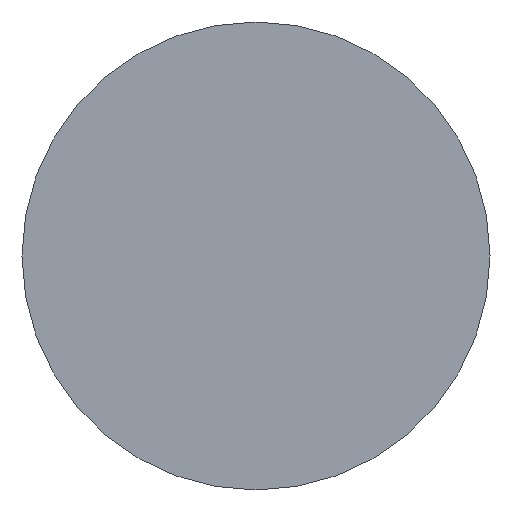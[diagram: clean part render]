
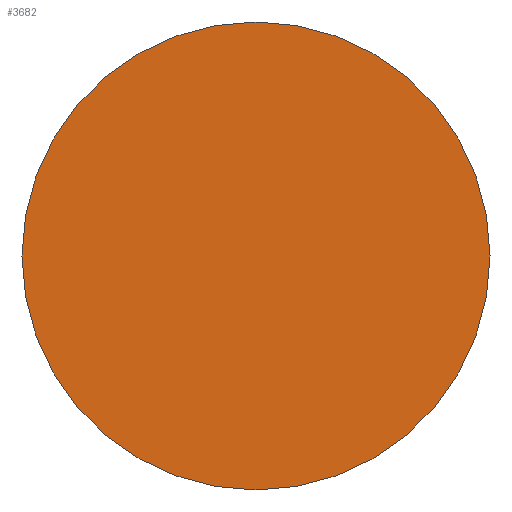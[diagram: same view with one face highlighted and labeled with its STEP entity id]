
A CAD part, top view. The second image highlights one B-rep face of the part: STEP entity #3682.
In plain terms, the highlighted planar face has unit normal (0, 0, 1).
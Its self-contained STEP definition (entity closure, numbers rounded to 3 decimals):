
#9 = CARTESIAN_POINT ( 'NONE',  ( 0., 0., 60. ) ) ;
#440 = VERTEX_POINT ( 'NONE', #10203 ) ;
#708 = EDGE_LOOP ( 'NONE', ( #11059 ) ) ;
#1427 = DIRECTION ( 'NONE',  ( 0., 0., -1. ) ) ;
#2708 = DIRECTION ( 'NONE',  ( -1., 0., 0. ) ) ;
#3112 = AXIS2_PLACEMENT_3D ( 'NONE', #9, #6477, #2708 ) ;
#3682 = ADVANCED_FACE ( 'NONE', ( #6722 ), #6556, .F. ) ;
#6477 = DIRECTION ( 'NONE',  ( 0., 0., -1. ) ) ;
#6556 = PLANE ( 'NONE',  #8084 ) ;
#6722 = FACE_OUTER_BOUND ( 'NONE', #708, .T. ) ;
#8084 = AXIS2_PLACEMENT_3D ( 'NONE', #10365, #1427, #8611 ) ;
#8205 = CIRCLE ( 'NONE', #3112, 17.5 ) ;
#8611 = DIRECTION ( 'NONE',  ( -1., 0., 0. ) ) ;
#10203 = CARTESIAN_POINT ( 'NONE',  ( -17.5, 0., 60. ) ) ;
#10352 = EDGE_CURVE ( 'NONE', #440, #440, #8205, .T. ) ;
#10365 = CARTESIAN_POINT ( 'NONE',  ( 17.5, 0., 60. ) ) ;
#11059 = ORIENTED_EDGE ( 'NONE', *, *, #10352, .F. ) ;
